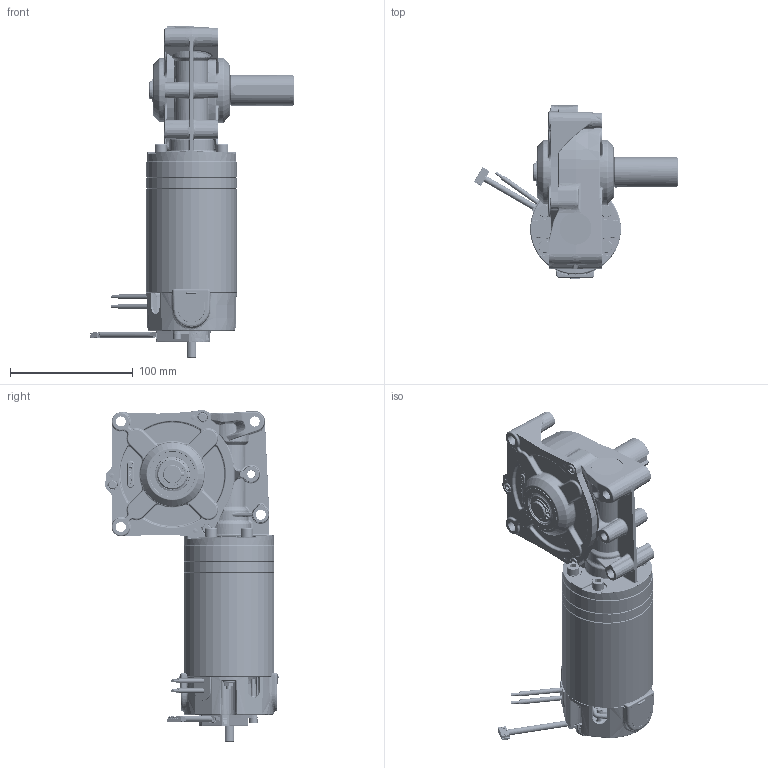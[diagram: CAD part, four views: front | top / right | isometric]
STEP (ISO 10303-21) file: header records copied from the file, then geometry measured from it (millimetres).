
FILE_DESCRIPTION (( 'STEP AP214' ), '1' );
FILE_NAME ('BRx70-40-GB12 - Encoder - Shaft (render model).STEP', '2024-01-10T12:26:52', ( '' ), ( '' ), 'SwSTEP 2.0', 'SolidWorks 2023', '' );
FILE_SCHEMA (( 'AUTOMOTIVE_DESIGN' ));
Length unit declared in the file: millimetre
Products named in the file (1): BRx70-40-GB12 - Encoder - Shaft (render model)
Bounding box: 166.19 x 141.47 x 270.55 mm (x, y, z)
Surface area: 282173.9 mm2 (no closed solid volume)
Topology: 0 solids, 73 shells, 7118 faces, 17987 edges, 11065 vertices
Faces by surface type: plane 2529, cylinder 2051, bspline 1158, cone 701, torus 567, sphere 112
Entity records: 342871 total; most frequent: CARTESIAN_POINT 110050, ORIENTED_EDGE 35580, DIRECTION 27242, EDGE_CURVE 17792, VERTEX_POINT 11061, AXIS2_PLACEMENT_3D 10970, EDGE_LOOP 7673, UNCERTAINTY_MEASURE_WITH_UNIT 7191
